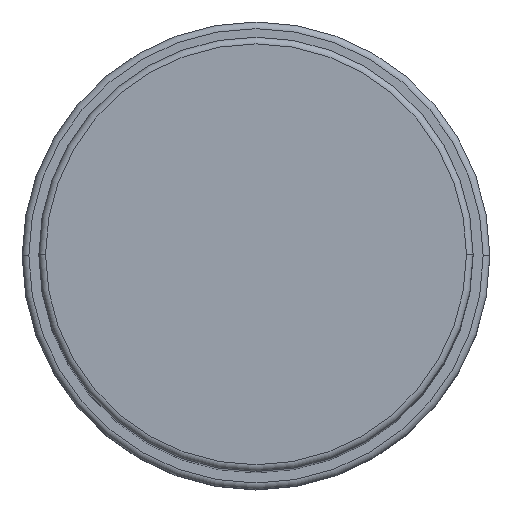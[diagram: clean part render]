
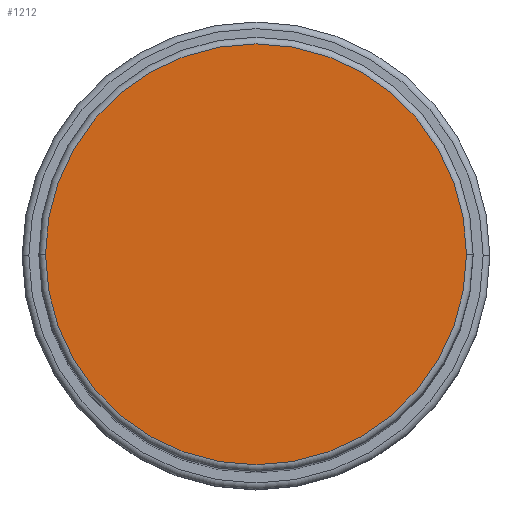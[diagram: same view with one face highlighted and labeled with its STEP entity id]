
A CAD part, top view. The second image highlights one B-rep face of the part: STEP entity #1212.
In plain terms, the highlighted planar face has unit normal (0, 0, 1).
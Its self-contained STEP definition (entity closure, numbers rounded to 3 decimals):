
#117 = VERTEX_POINT ( 'NONE', #712 ) ;
#140 = DIRECTION ( 'NONE',  ( 0., 0., 1. ) ) ;
#712 = CARTESIAN_POINT ( 'NONE',  ( 31.5, 0., 143. ) ) ;
#892 = DIRECTION ( 'NONE',  ( 0., 0., 1. ) ) ;
#1212 = ADVANCED_FACE ( 'NONE', ( #3371 ), #3789, .T. ) ;
#1310 = EDGE_CURVE ( 'NONE', #117, #2862, #3310, .T. ) ;
#1340 = DIRECTION ( 'NONE',  ( 1., 0., 0. ) ) ;
#1372 = AXIS2_PLACEMENT_3D ( 'NONE', #3892, #140, #1340 ) ;
#1930 = AXIS2_PLACEMENT_3D ( 'NONE', #3726, #5451, #4651 ) ;
#2036 = AXIS2_PLACEMENT_3D ( 'NONE', #2558, #892, #2992 ) ;
#2291 = EDGE_CURVE ( 'NONE', #2862, #117, #2898, .T. ) ;
#2558 = CARTESIAN_POINT ( 'NONE',  ( 0., 0., 143. ) ) ;
#2836 = CARTESIAN_POINT ( 'NONE',  ( -31.5, 0., 143. ) ) ;
#2862 = VERTEX_POINT ( 'NONE', #2836 ) ;
#2898 = CIRCLE ( 'NONE', #1372, 31.5 ) ;
#2992 = DIRECTION ( 'NONE',  ( 1., 0., 0. ) ) ;
#3299 = ORIENTED_EDGE ( 'NONE', *, *, #2291, .T. ) ;
#3310 = CIRCLE ( 'NONE', #2036, 31.5 ) ;
#3371 = FACE_OUTER_BOUND ( 'NONE', #4409, .T. ) ;
#3726 = CARTESIAN_POINT ( 'NONE',  ( 0., 0., 143. ) ) ;
#3789 = PLANE ( 'NONE',  #1930 ) ;
#3892 = CARTESIAN_POINT ( 'NONE',  ( 0., 0., 143. ) ) ;
#4409 = EDGE_LOOP ( 'NONE', ( #4463, #3299 ) ) ;
#4463 = ORIENTED_EDGE ( 'NONE', *, *, #1310, .T. ) ;
#4651 = DIRECTION ( 'NONE',  ( 1., 0., 0. ) ) ;
#5451 = DIRECTION ( 'NONE',  ( 0., 0., 1. ) ) ;
